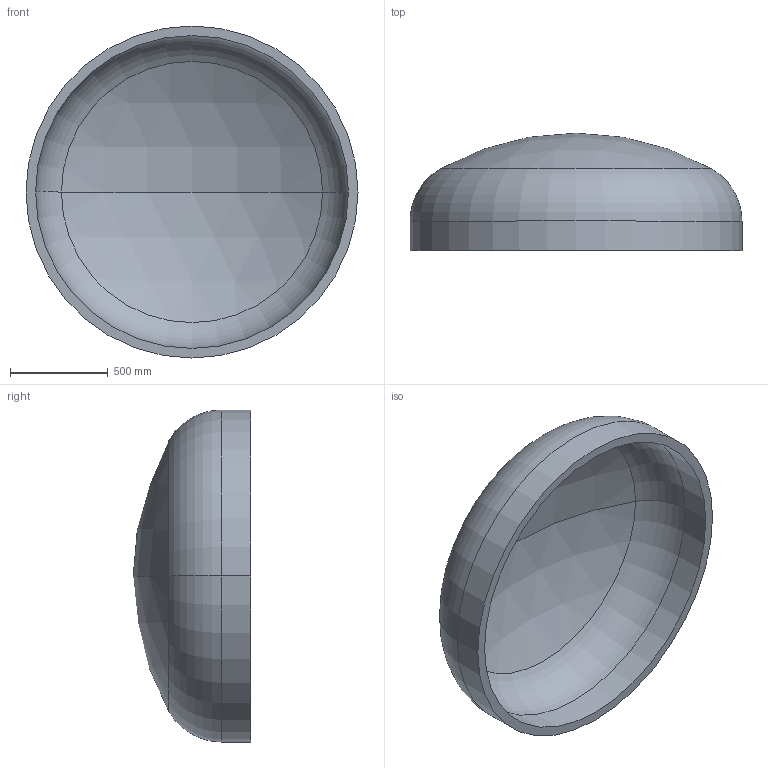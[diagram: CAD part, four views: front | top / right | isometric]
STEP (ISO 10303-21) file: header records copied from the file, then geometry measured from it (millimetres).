
FILE_DESCRIPTION (( 'STEP AP203' ), '1' );
FILE_NAME ('DIN 28013 Korbbogenform_-_Boden DIN 28013 - 1700 x 150 - I - s=49.step', '2016-07-01T11:52:45', ( '' ), ( '' ), 'SwSTEP 2.0', 'SolidWorks 2013', '' );
FILE_SCHEMA (( 'CONFIG_CONTROL_DESIGN' ));
Length unit declared in the file: millimetre
Products named in the file (1): DIN 28013 Korbbogenform_-_Boden DIN 28013 - 1700 x 150 - I - s=49
Bounding box: 1700 x 601.23 x 1700 mm (x, y, z)
Volume: 186258831.9 mm3; surface area: 7861579.5 mm2
Topology: 1 solids, 1 shells, 13 faces, 24 edges, 14 vertices
Faces by surface type: torus 4, cylinder 4, sphere 4, plane 1
Entity records: 407 total; most frequent: DIRECTION 72, CARTESIAN_POINT 52, ORIENTED_EDGE 48, AXIS2_PLACEMENT_3D 34, EDGE_CURVE 24, CIRCLE 20, VERTEX_POINT 14, EDGE_LOOP 14
